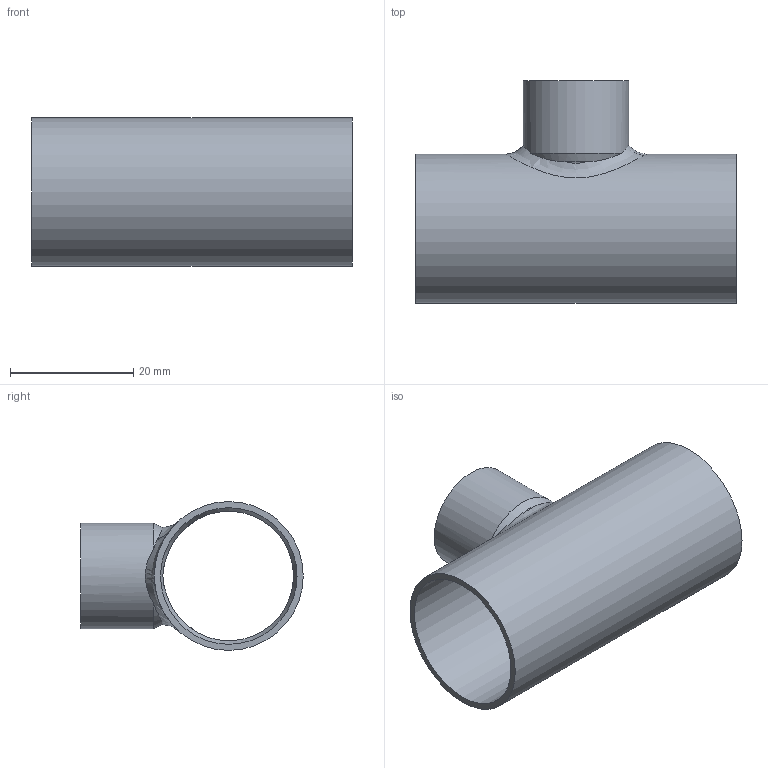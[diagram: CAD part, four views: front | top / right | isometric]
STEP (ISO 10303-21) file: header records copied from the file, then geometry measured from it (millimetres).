
FILE_DESCRIPTION(/* description */ (''),/* implementation_level */ '2;1');
FILE_NAME(/* name */ 'G:\Technik\Management\ontwikkeling\Ontwikkeling + Leveringsdokumenten + proefberichten\Sanha Ternat\Ternat 2024\Step files\5130221522_3d gem.stp',/* time_stamp */ '2024-02-29T09:32:59+01:00',/* author */ ('vdvijverd'),/* organization */ (''),/* preprocessor_version */ 'ST-DEVELOPER v19',/* originating_system */ 'Autodesk Inventor 2023',/* authorisation */ '');
FILE_SCHEMA (('AUTOMOTIVE_DESIGN { 1 0 10303 214 3 1 1 }'));
Length unit declared in the file: millimetre
Products named in the file (1): 5130221522_3d gem
Bounding box: 52 x 36.08 x 24.15 mm (x, y, z)
Volume: 4854.3 mm3; surface area: 8702.9 mm2
Topology: 1 solids, 1 shells, 20 faces, 53 edges, 35 vertices
Faces by surface type: cylinder 10, cone 5, plane 3, bspline 2
Full cylindrical faces by diameter (mm): 15.1 x1, 17.1 x1, 22.15 x2, 24.15 x1
Entity records: 1090 total; most frequent: CARTESIAN_POINT 572, ORIENTED_EDGE 106, DIRECTION 88, EDGE_CURVE 53, AXIS2_PLACEMENT_3D 40, VERTEX_POINT 35, EDGE_LOOP 24, B_SPLINE_CURVE_WITH_KNOTS 24
